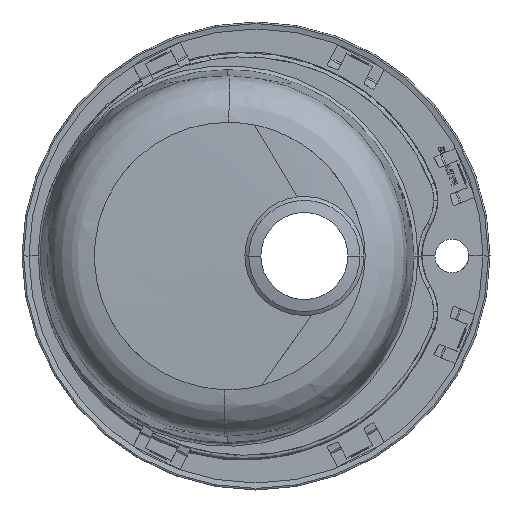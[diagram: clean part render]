
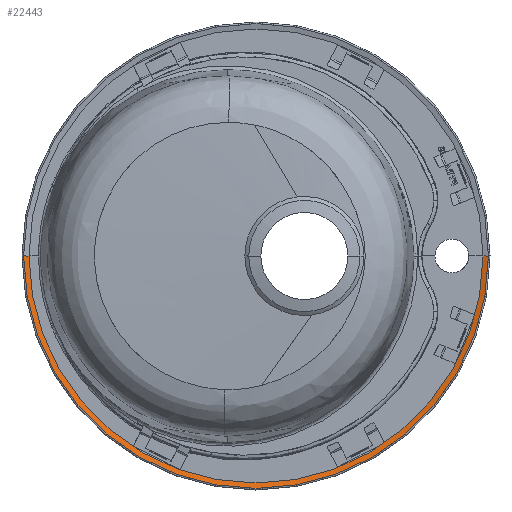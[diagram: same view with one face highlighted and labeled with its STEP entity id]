
A CAD part, front view. The second image highlights one B-rep face of the part: STEP entity #22443.
In plain terms, the highlighted conical face has half-angle 74.584 degrees and reference radius 240.32 mm.
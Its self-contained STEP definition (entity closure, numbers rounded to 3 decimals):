
#478 = CARTESIAN_POINT ( 'NONE',  ( -205.254, -2.773, 0. ) ) ;
#1109 = AXIS2_PLACEMENT_3D ( 'NONE', #17637, #14046, #8170 ) ;
#1219 = ORIENTED_EDGE ( 'NONE', *, *, #11487, .F. ) ;
#1651 = AXIS2_PLACEMENT_3D ( 'NONE', #23404, #15877, #21389 ) ;
#2288 = CONICAL_SURFACE ( 'NONE', #1109, 240.32, 1.302 ) ;
#3583 = CIRCLE ( 'NONE', #1651, 240.32 ) ;
#4005 = DIRECTION ( 'NONE',  ( -1., 0., 0. ) ) ;
#4293 = LINE ( 'NONE', #13427, #21641 ) ;
#4321 = ORIENTED_EDGE ( 'NONE', *, *, #16127, .F. ) ;
#4469 = DIRECTION ( 'NONE',  ( 0., 1., 0. ) ) ;
#4702 = VECTOR ( 'NONE', #13402, 1000. ) ;
#5764 = VERTEX_POINT ( 'NONE', #16226 ) ;
#8103 = CARTESIAN_POINT ( 'NONE',  ( -210.82, -4.308, 0. ) ) ;
#8170 = DIRECTION ( 'NONE',  ( 1., 0., 0. ) ) ;
#8186 = CIRCLE ( 'NONE', #21954, 234.754 ) ;
#9515 = VERTEX_POINT ( 'NONE', #19882 ) ;
#10325 = FACE_OUTER_BOUND ( 'NONE', #15519, .T. ) ;
#11001 = VERTEX_POINT ( 'NONE', #478 ) ;
#11137 = DIRECTION ( 'NONE',  ( 0.964, -0.266, 0. ) ) ;
#11256 = EDGE_CURVE ( 'NONE', #11001, #5764, #22484, .T. ) ;
#11318 = VERTEX_POINT ( 'NONE', #23288 ) ;
#11487 = EDGE_CURVE ( 'NONE', #11318, #5764, #3583, .T. ) ;
#11758 = EDGE_CURVE ( 'NONE', #9515, #11001, #8186, .T. ) ;
#11875 = ORIENTED_EDGE ( 'NONE', *, *, #11758, .T. ) ;
#13402 = DIRECTION ( 'NONE',  ( -0.964, -0.266, 0. ) ) ;
#13427 = CARTESIAN_POINT ( 'NONE',  ( 269.82, -4.308, 0. ) ) ;
#14046 = DIRECTION ( 'NONE',  ( 0., -1., 0. ) ) ;
#15519 = EDGE_LOOP ( 'NONE', ( #11875, #18461, #1219, #4321 ) ) ;
#15877 = DIRECTION ( 'NONE',  ( 0., 1., 0. ) ) ;
#16127 = EDGE_CURVE ( 'NONE', #9515, #11318, #4293, .T. ) ;
#16226 = CARTESIAN_POINT ( 'NONE',  ( -210.82, -4.308, 0. ) ) ;
#17637 = CARTESIAN_POINT ( 'NONE',  ( 29.5, -4.308, 0. ) ) ;
#18461 = ORIENTED_EDGE ( 'NONE', *, *, #11256, .T. ) ;
#19882 = CARTESIAN_POINT ( 'NONE',  ( 264.254, -2.773, 0. ) ) ;
#20895 = CARTESIAN_POINT ( 'NONE',  ( 29.5, -2.773, 0. ) ) ;
#21389 = DIRECTION ( 'NONE',  ( -1., 0., 0. ) ) ;
#21641 = VECTOR ( 'NONE', #11137, 1000. ) ;
#21954 = AXIS2_PLACEMENT_3D ( 'NONE', #20895, #4469, #4005 ) ;
#22443 = ADVANCED_FACE ( 'NONE', ( #10325 ), #2288, .F. ) ;
#22484 = LINE ( 'NONE', #8103, #4702 ) ;
#23288 = CARTESIAN_POINT ( 'NONE',  ( 269.82, -4.308, 0. ) ) ;
#23404 = CARTESIAN_POINT ( 'NONE',  ( 29.5, -4.308, 0. ) ) ;
